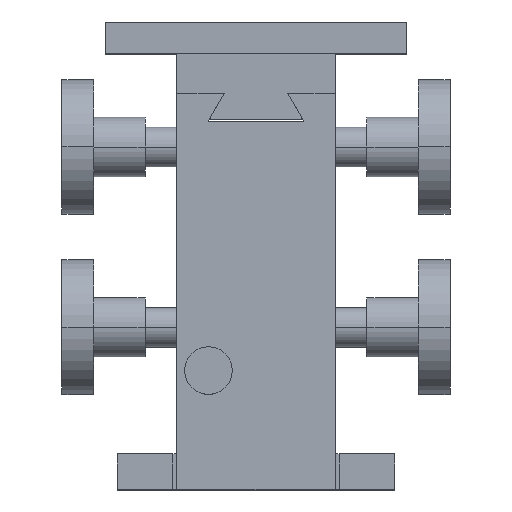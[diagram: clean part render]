
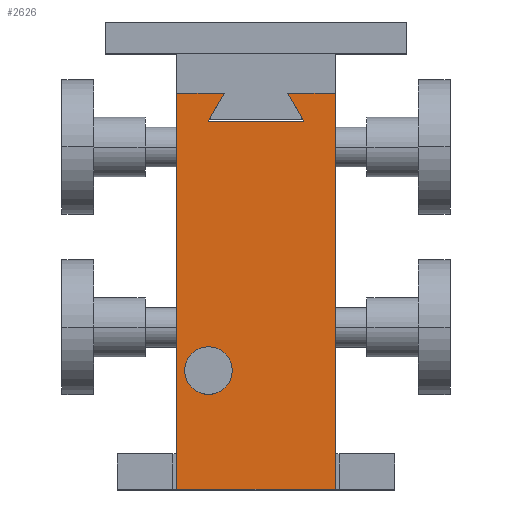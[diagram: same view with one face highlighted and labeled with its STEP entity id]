
A CAD part, top view. The second image highlights one B-rep face of the part: STEP entity #2626.
In plain terms, the highlighted planar face has unit normal (0, 0, 1).
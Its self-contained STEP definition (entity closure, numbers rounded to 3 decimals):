
#2456 = VERTEX_POINT ( 'NONE', #5298 ) ;
#2458 = EDGE_CURVE ( 'NONE', #2459, #2456, #5297, .T. ) ;
#2459 = VERTEX_POINT ( 'NONE', #5292 ) ;
#2558 = ORIENTED_EDGE ( 'NONE', *, *, #2617, .F. ) ;
#2559 = ORIENTED_EDGE ( 'NONE', *, *, #2608, .F. ) ;
#2560 = ORIENTED_EDGE ( 'NONE', *, *, #2655, .F. ) ;
#2561 = ORIENTED_EDGE ( 'NONE', *, *, #2646, .F. ) ;
#2562 = ORIENTED_EDGE ( 'NONE', *, *, #2691, .F. ) ;
#2601 = ORIENTED_EDGE ( 'NONE', *, *, #2640, .F. ) ;
#2602 = ORIENTED_EDGE ( 'NONE', *, *, #2718, .F. ) ;
#2603 = ORIENTED_EDGE ( 'NONE', *, *, #2826, .F. ) ;
#2604 = EDGE_LOOP ( 'NONE', ( #2605, #2606 ) ) ;
#2605 = ORIENTED_EDGE ( 'NONE', *, *, #2458, .T. ) ;
#2606 = ORIENTED_EDGE ( 'NONE', *, *, #2607, .T. ) ;
#2607 = EDGE_CURVE ( 'NONE', #2456, #2459, #5537, .T. ) ;
#2608 = EDGE_CURVE ( 'NONE', #2656, #2609, #5532, .T. ) ;
#2609 = VERTEX_POINT ( 'NONE', #5528 ) ;
#2617 = EDGE_CURVE ( 'NONE', #2609, #2824, #5425, .T. ) ;
#2626 = ADVANCED_FACE ( 'NONE', ( #5415, #5414 ), #5413, .F. ) ;
#2627 = EDGE_LOOP ( 'NONE', ( #2558, #2559, #2560, #2561, #2562, #2601, #2602, #2603 ) ) ;
#2640 = EDGE_CURVE ( 'NONE', #2719, #2681, #5486, .T. ) ;
#2646 = EDGE_CURVE ( 'NONE', #2692, #2647, #5477, .T. ) ;
#2647 = VERTEX_POINT ( 'NONE', #5466 ) ;
#2655 = EDGE_CURVE ( 'NONE', #2647, #2656, #5455, .T. ) ;
#2656 = VERTEX_POINT ( 'NONE', #5451 ) ;
#2681 = VERTEX_POINT ( 'NONE', #5617 ) ;
#2691 = EDGE_CURVE ( 'NONE', #2681, #2692, #5600, .T. ) ;
#2692 = VERTEX_POINT ( 'NONE', #5596 ) ;
#2716 = VERTEX_POINT ( 'NONE', #5508 ) ;
#2718 = EDGE_CURVE ( 'NONE', #2716, #2719, #5507, .T. ) ;
#2719 = VERTEX_POINT ( 'NONE', #5503 ) ;
#2824 = VERTEX_POINT ( 'NONE', #5887 ) ;
#2826 = EDGE_CURVE ( 'NONE', #2824, #2716, #5886, .T. ) ;
#5292 = CARTESIAN_POINT ( 'NONE',  ( -10., 30., 40. ) ) ;
#5293 = DIRECTION ( 'NONE',  ( -1., 0., 0. ) ) ;
#5294 = DIRECTION ( 'NONE',  ( 0., 0., -1. ) ) ;
#5295 = CARTESIAN_POINT ( 'NONE',  ( -12., 30., 40. ) ) ;
#5296 = AXIS2_PLACEMENT_3D ( 'NONE', #5295, #5294, #5293 ) ;
#5297 = CIRCLE ( 'NONE', #5296, 2. ) ;
#5298 = CARTESIAN_POINT ( 'NONE',  ( -14., 30., 40. ) ) ;
#5409 = DIRECTION ( 'NONE',  ( -1., 0., 0. ) ) ;
#5410 = DIRECTION ( 'NONE',  ( 0., 0., -1. ) ) ;
#5411 = CARTESIAN_POINT ( 'NONE',  ( 20., 100., 40. ) ) ;
#5412 = AXIS2_PLACEMENT_3D ( 'NONE', #5411, #5410, #5409 ) ;
#5413 = PLANE ( 'NONE',  #5412 ) ;
#5414 = FACE_BOUND ( 'NONE', #2604, .T. ) ;
#5415 = FACE_OUTER_BOUND ( 'NONE', #2627, .T. ) ;
#5422 = DIRECTION ( 'NONE',  ( 1., 0., 0. ) ) ;
#5423 = VECTOR ( 'NONE', #5422, 1000. ) ;
#5424 = CARTESIAN_POINT ( 'NONE',  ( 20., 100., 40. ) ) ;
#5425 = LINE ( 'NONE', #5424, #5423 ) ;
#5451 = CARTESIAN_POINT ( 'NONE',  ( 12.041, 93., 40. ) ) ;
#5452 = DIRECTION ( 'NONE',  ( 1., 0., 0. ) ) ;
#5453 = VECTOR ( 'NONE', #5452, 1000. ) ;
#5454 = CARTESIAN_POINT ( 'NONE',  ( 12.041, 93., 40. ) ) ;
#5455 = LINE ( 'NONE', #5454, #5453 ) ;
#5466 = CARTESIAN_POINT ( 'NONE',  ( -12.041, 93., 40. ) ) ;
#5474 = DIRECTION ( 'NONE',  ( -0.5, -0.866, 0. ) ) ;
#5475 = VECTOR ( 'NONE', #5474, 1000. ) ;
#5476 = CARTESIAN_POINT ( 'NONE',  ( -12.041, 93., 40. ) ) ;
#5477 = LINE ( 'NONE', #5476, #5475 ) ;
#5483 = DIRECTION ( 'NONE',  ( 0., 1., 0. ) ) ;
#5484 = VECTOR ( 'NONE', #5483, 1000. ) ;
#5485 = CARTESIAN_POINT ( 'NONE',  ( -20., 100., 40. ) ) ;
#5486 = LINE ( 'NONE', #5485, #5484 ) ;
#5503 = CARTESIAN_POINT ( 'NONE',  ( -20., 0., 40. ) ) ;
#5504 = DIRECTION ( 'NONE',  ( -1., 0., 0. ) ) ;
#5505 = VECTOR ( 'NONE', #5504, 1000. ) ;
#5506 = CARTESIAN_POINT ( 'NONE',  ( -20., 0., 40. ) ) ;
#5507 = LINE ( 'NONE', #5506, #5505 ) ;
#5508 = CARTESIAN_POINT ( 'NONE',  ( 20., 0., 40. ) ) ;
#5528 = CARTESIAN_POINT ( 'NONE',  ( 8., 100., 40. ) ) ;
#5529 = DIRECTION ( 'NONE',  ( -0.5, 0.866, 0. ) ) ;
#5530 = VECTOR ( 'NONE', #5529, 1000. ) ;
#5531 = CARTESIAN_POINT ( 'NONE',  ( 8., 100., 40. ) ) ;
#5532 = LINE ( 'NONE', #5531, #5530 ) ;
#5533 = DIRECTION ( 'NONE',  ( -1., 0., 0. ) ) ;
#5534 = DIRECTION ( 'NONE',  ( 0., 0., -1. ) ) ;
#5535 = CARTESIAN_POINT ( 'NONE',  ( -12., 30., 40. ) ) ;
#5536 = AXIS2_PLACEMENT_3D ( 'NONE', #5535, #5534, #5533 ) ;
#5537 = CIRCLE ( 'NONE', #5536, 2. ) ;
#5596 = CARTESIAN_POINT ( 'NONE',  ( -8., 100., 40. ) ) ;
#5597 = DIRECTION ( 'NONE',  ( 1., 0., 0. ) ) ;
#5598 = VECTOR ( 'NONE', #5597, 1000. ) ;
#5599 = CARTESIAN_POINT ( 'NONE',  ( -8., 100., 40. ) ) ;
#5600 = LINE ( 'NONE', #5599, #5598 ) ;
#5617 = CARTESIAN_POINT ( 'NONE',  ( -20., 100., 40. ) ) ;
#5883 = DIRECTION ( 'NONE',  ( 0., -1., 0. ) ) ;
#5884 = VECTOR ( 'NONE', #5883, 1000. ) ;
#5885 = CARTESIAN_POINT ( 'NONE',  ( 20., 0., 40. ) ) ;
#5886 = LINE ( 'NONE', #5885, #5884 ) ;
#5887 = CARTESIAN_POINT ( 'NONE',  ( 20., 100., 40. ) ) ;
